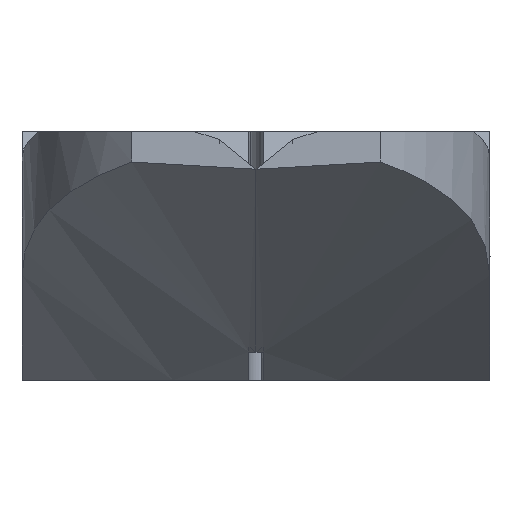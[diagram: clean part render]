
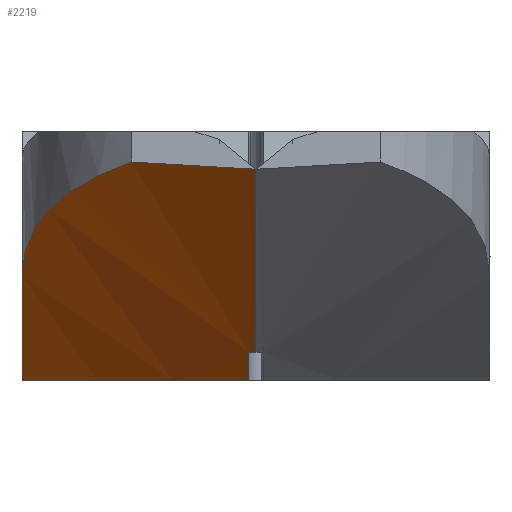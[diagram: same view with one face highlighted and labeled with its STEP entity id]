
A CAD part, left-side view. The second image highlights one B-rep face of the part: STEP entity #2219.
In plain terms, the highlighted cylindrical face has radius 85 mm (diameter 170 mm), a partial arc.
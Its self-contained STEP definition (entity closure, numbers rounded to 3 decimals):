
#31 = CARTESIAN_POINT ( 'NONE',  ( -58., 0., -2.566 ) ) ;
#73 = CARTESIAN_POINT ( 'NONE',  ( -42.388, 16., -9.826 ) ) ;
#102 = FACE_OUTER_BOUND ( 'NONE', #2087, .T. ) ;
#114 = CARTESIAN_POINT ( 'NONE',  ( -34.103, 16., -14.609 ) ) ;
#566 = CARTESIAN_POINT ( 'NONE',  ( -58., 5.674, -2.402 ) ) ;
#608 = EDGE_CURVE ( 'NONE', #3586, #1578, #1299, .T. ) ;
#662 = CARTESIAN_POINT ( 'NONE',  ( -29.961, 16., -17. ) ) ;
#891 = B_SPLINE_CURVE_WITH_KNOTS ( 'NONE', 3,
 ( #2923, #2490, #3770, #1217 ),
 .UNSPECIFIED., .F., .F.,
 ( 4, 4 ),
 ( 0., 1. ),
 .UNSPECIFIED. ) ;
#1002 = VECTOR ( 'NONE', #2370, 1000. ) ;
#1093 = ORIENTED_EDGE ( 'NONE', *, *, #1113, .T. ) ;
#1113 = EDGE_CURVE ( 'NONE', #5308, #4166, #3172, .T. ) ;
#1120 = CARTESIAN_POINT ( 'NONE',  ( -51.666, 13.719, -4.937 ) ) ;
#1217 = CARTESIAN_POINT ( 'NONE',  ( -36.349, 0.5, -15.065 ) ) ;
#1299 = B_SPLINE_CURVE_WITH_KNOTS ( 'NONE', 3,
 ( #3791, #4052, #3937, #3366, #1573, #5005, #4961, #5051, #4162, #4190, #5071, #4359, #3778, #1120, #2968, #5101, #4494, #4941, #2890, #3384, #2685, #2133, #4311, #3584, #1310, #3563, #4702, #1834, #2098, #1789, #5171, #73 ),
 .UNSPECIFIED., .F., .F.,
 ( 4, 2, 1, 1, 2, 2, 2, 2, 1, 1, 2, 2, 2, 2, 1, 1, 2, 2, 4 ),
 ( 0., 0.125, 0.188, 0.219, 0.234, 0.25, 0.375, 0.438, 0.469, 0.484, 0.492, 0.5, 0.625, 0.688, 0.719, 0.734, 0.742, 0.75, 1. ),
 .UNSPECIFIED. ) ;
#1310 = CARTESIAN_POINT ( 'NONE',  ( -47.273, 15.395, -7.136 ) ) ;
#1388 = CARTESIAN_POINT ( 'NONE',  ( -36.349, 0.5, -15.065 ) ) ;
#1541 = VERTEX_POINT ( 'NONE', #4993 ) ;
#1573 = CARTESIAN_POINT ( 'NONE',  ( -55.734, 10.904, -3.064 ) ) ;
#1578 = VERTEX_POINT ( 'NONE', #4598 ) ;
#1667 = CARTESIAN_POINT ( 'NONE',  ( -32.997, 0.5, -17. ) ) ;
#1679 = CARTESIAN_POINT ( 'NONE',  ( -29.961, 16., -17. ) ) ;
#1789 = CARTESIAN_POINT ( 'NONE',  ( -45.241, 15.847, -8.212 ) ) ;
#1797 = DIRECTION ( 'NONE',  ( 0.866, 0., -0.5 ) ) ;
#1805 = CARTESIAN_POINT ( 'NONE',  ( -36.35, 0.361, -15.065 ) ) ;
#1806 = CARTESIAN_POINT ( 'NONE',  ( -38.245, 16., -12.217 ) ) ;
#1819 = CARTESIAN_POINT ( 'NONE',  ( -32.936, 5.683, -17. ) ) ;
#1834 = CARTESIAN_POINT ( 'NONE',  ( -46.736, 15.521, -7.419 ) ) ;
#1835 = EDGE_CURVE ( 'NONE', #2675, #1541, #4039, .T. ) ;
#1889 = CARTESIAN_POINT ( 'NONE',  ( -31.924, 10.879, -17. ) ) ;
#1939 = ORIENTED_EDGE ( 'NONE', *, *, #2821, .T. ) ;
#2000 = ORIENTED_EDGE ( 'NONE', *, *, #4617, .T. ) ;
#2054 = ORIENTED_EDGE ( 'NONE', *, *, #1835, .T. ) ;
#2087 = EDGE_LOOP ( 'NONE', ( #2000, #4163, #5152, #1093, #5496, #2054, #1939 ) ) ;
#2098 = CARTESIAN_POINT ( 'NONE',  ( -46.69, 15.531, -7.444 ) ) ;
#2133 = CARTESIAN_POINT ( 'NONE',  ( -48.422, 15.071, -6.541 ) ) ;
#2219 = ADVANCED_FACE ( 'NONE', ( #102 ), #5524, .T. ) ;
#2238 = CARTESIAN_POINT ( 'NONE',  ( -36.349, 0.056, -15.066 ) ) ;
#2370 = DIRECTION ( 'NONE',  ( -0.866, 0., 0.5 ) ) ;
#2490 = CARTESIAN_POINT ( 'NONE',  ( -34.114, 0.5, -16.355 ) ) ;
#2638 = B_SPLINE_CURVE_WITH_KNOTS ( 'NONE', 3,
 ( #5250, #1806, #114, #3111 ),
 .UNSPECIFIED., .F., .F.,
 ( 4, 4 ),
 ( 0., 1. ),
 .UNSPECIFIED. ) ;
#2675 = VERTEX_POINT ( 'NONE', #5396 ) ;
#2685 = CARTESIAN_POINT ( 'NONE',  ( -49.465, 14.72, -6.011 ) ) ;
#2690 = CARTESIAN_POINT ( 'NONE',  ( -58., 0., -2.566 ) ) ;
#2821 = EDGE_CURVE ( 'NONE', #1541, #3268, #4422, .T. ) ;
#2890 = CARTESIAN_POINT ( 'NONE',  ( -50.86, 14.117, -5.325 ) ) ;
#2923 = CARTESIAN_POINT ( 'NONE',  ( -32.997, 0.5, -17. ) ) ;
#2949 = EDGE_CURVE ( 'NONE', #4166, #2675, #891, .T. ) ;
#2968 = CARTESIAN_POINT ( 'NONE',  ( -51.414, 13.849, -5.057 ) ) ;
#3111 = CARTESIAN_POINT ( 'NONE',  ( -29.961, 16., -17. ) ) ;
#3172 = B_SPLINE_CURVE_WITH_KNOTS ( 'NONE', 3,
 ( #1679, #1889, #1819, #1667 ),
 .UNSPECIFIED., .F., .F.,
 ( 4, 4 ),
 ( 0., 1. ),
 .UNSPECIFIED. ) ;
#3246 = CARTESIAN_POINT ( 'NONE',  ( -25.628, 0., -21.256 ) ) ;
#3268 = VERTEX_POINT ( 'NONE', #31 ) ;
#3366 = CARTESIAN_POINT ( 'NONE',  ( -56.159, 10.508, -2.877 ) ) ;
#3369 = EDGE_CURVE ( 'NONE', #1578, #5308, #2638, .T. ) ;
#3384 = CARTESIAN_POINT ( 'NONE',  ( -50.148, 14.448, -5.672 ) ) ;
#3491 = CARTESIAN_POINT ( 'NONE',  ( -32.997, 0.5, -17. ) ) ;
#3549 = CARTESIAN_POINT ( 'NONE',  ( -58., 8.5, -2.074 ) ) ;
#3563 = CARTESIAN_POINT ( 'NONE',  ( -46.96, 15.47, -7.301 ) ) ;
#3584 = CARTESIAN_POINT ( 'NONE',  ( -47.54, 15.325, -6.997 ) ) ;
#3586 = VERTEX_POINT ( 'NONE', #5157 ) ;
#3770 = CARTESIAN_POINT ( 'NONE',  ( -35.232, 0.5, -15.71 ) ) ;
#3778 = CARTESIAN_POINT ( 'NONE',  ( -52.165, 13.451, -4.698 ) ) ;
#3791 = CARTESIAN_POINT ( 'NONE',  ( -58., 8.5, -2.074 ) ) ;
#3937 = CARTESIAN_POINT ( 'NONE',  ( -56.988, 9.691, -2.513 ) ) ;
#3941 = DIRECTION ( 'NONE',  ( -0.5, 0., -0.866 ) ) ;
#3948 = CARTESIAN_POINT ( 'NONE',  ( -36.349, 0.444, -15.065 ) ) ;
#4039 = B_SPLINE_CURVE_WITH_KNOTS ( 'NONE', 3,
 ( #1388, #3948, #1805, #4831, #2238, #5249 ),
 .UNSPECIFIED., .F., .F.,
 ( 4, 2, 4 ),
 ( 0., 0.5, 1. ),
 .UNSPECIFIED. ) ;
#4052 = CARTESIAN_POINT ( 'NONE',  ( -57.51, 9.112, -2.286 ) ) ;
#4162 = CARTESIAN_POINT ( 'NONE',  ( -54.763, 11.711, -3.499 ) ) ;
#4163 = ORIENTED_EDGE ( 'NONE', *, *, #608, .T. ) ;
#4166 = VERTEX_POINT ( 'NONE', #3491 ) ;
#4190 = CARTESIAN_POINT ( 'NONE',  ( -54.085, 12.24, -3.805 ) ) ;
#4311 = CARTESIAN_POINT ( 'NONE',  ( -48.071, 15.179, -6.721 ) ) ;
#4359 = CARTESIAN_POINT ( 'NONE',  ( -52.493, 13.264, -4.544 ) ) ;
#4380 = CARTESIAN_POINT ( 'NONE',  ( -26.966, 0., 77.666 ) ) ;
#4422 = LINE ( 'NONE', #3246, #1002 ) ;
#4494 = CARTESIAN_POINT ( 'NONE',  ( -50.99, 14.056, -5.263 ) ) ;
#4598 = CARTESIAN_POINT ( 'NONE',  ( -42.388, 16., -9.826 ) ) ;
#4617 = EDGE_CURVE ( 'NONE', #3268, #3586, #4870, .T. ) ;
#4702 = CARTESIAN_POINT ( 'NONE',  ( -46.826, 15.501, -7.372 ) ) ;
#4819 = AXIS2_PLACEMENT_3D ( 'NONE', #4380, #1797, #3941 ) ;
#4831 = CARTESIAN_POINT ( 'NONE',  ( -36.35, 0.139, -15.066 ) ) ;
#4870 = B_SPLINE_CURVE_WITH_KNOTS ( 'NONE', 3,
 ( #2690, #5264, #566, #3549 ),
 .UNSPECIFIED., .F., .F.,
 ( 4, 4 ),
 ( 0., 1. ),
 .UNSPECIFIED. ) ;
#4941 = CARTESIAN_POINT ( 'NONE',  ( -50.904, 14.096, -5.304 ) ) ;
#4961 = CARTESIAN_POINT ( 'NONE',  ( -54.992, 11.528, -3.396 ) ) ;
#4993 = CARTESIAN_POINT ( 'NONE',  ( -36.35, 0., -15.066 ) ) ;
#5005 = CARTESIAN_POINT ( 'NONE',  ( -55.217, 11.344, -3.295 ) ) ;
#5051 = CARTESIAN_POINT ( 'NONE',  ( -54.841, 11.65, -3.464 ) ) ;
#5071 = CARTESIAN_POINT ( 'NONE',  ( -53.461, 12.672, -4.091 ) ) ;
#5101 = CARTESIAN_POINT ( 'NONE',  ( -51.117, 13.995, -5.2 ) ) ;
#5152 = ORIENTED_EDGE ( 'NONE', *, *, #3369, .T. ) ;
#5157 = CARTESIAN_POINT ( 'NONE',  ( -58., 8.5, -2.074 ) ) ;
#5171 = CARTESIAN_POINT ( 'NONE',  ( -43.821, 16., -8.998 ) ) ;
#5249 = CARTESIAN_POINT ( 'NONE',  ( -36.35, 0., -15.066 ) ) ;
#5250 = CARTESIAN_POINT ( 'NONE',  ( -42.388, 16., -9.826 ) ) ;
#5264 = CARTESIAN_POINT ( 'NONE',  ( -58., 2.836, -2.566 ) ) ;
#5308 = VERTEX_POINT ( 'NONE', #662 ) ;
#5396 = CARTESIAN_POINT ( 'NONE',  ( -36.349, 0.5, -15.065 ) ) ;
#5496 = ORIENTED_EDGE ( 'NONE', *, *, #2949, .T. ) ;
#5524 = CYLINDRICAL_SURFACE ( 'NONE', #4819, 85. ) ;
